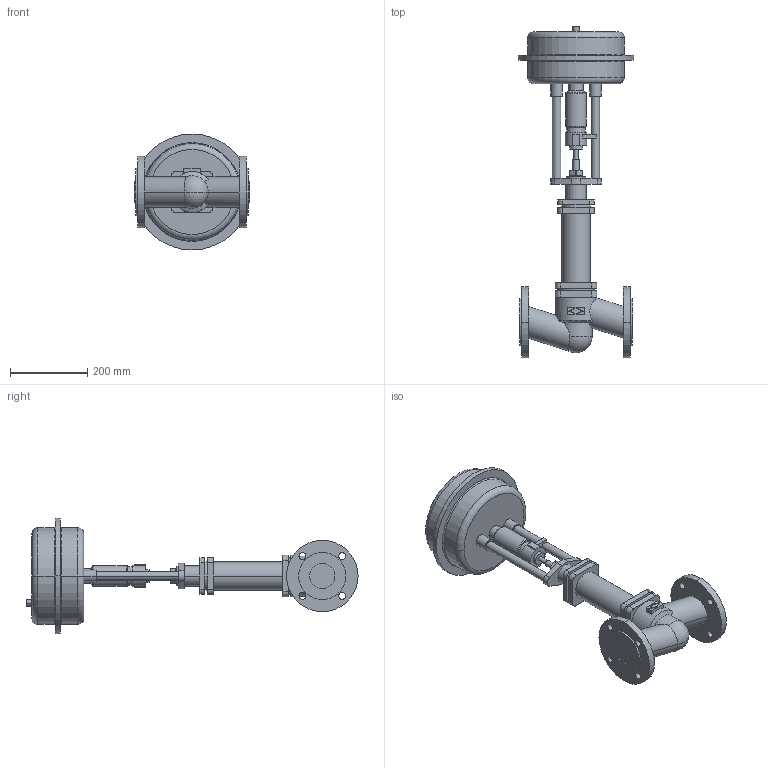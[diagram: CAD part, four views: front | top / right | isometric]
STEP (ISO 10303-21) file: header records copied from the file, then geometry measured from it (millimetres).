
FILE_DESCRIPTION(('OneSpaceDesigner STEP Export'),'2;1');
FILE_NAME('c000002080.stp','2005-12-12T11:15:26',(''),(''),'OneSpace Designer STEP processor for AP203 (Solid Model)','OneSpace Designer 13.20A 18-Aug-2005 (C) CoCreate Software GmbH','');
FILE_SCHEMA(('CONFIG_CONTROL_DESIGN'));
Length unit declared in the file: millimetre
Products named in the file (1): 1
Bounding box: 300 x 859.6 x 300 mm (x, y, z)
Volume: 11783457.8 mm3; surface area: 640768.7 mm2
Topology: 1 solids, 1 shells, 218 faces, 535 edges, 349 vertices
Faces by surface type: cylinder 104, plane 90, torus 16, cone 6, sphere 2
Entity records: 6177 total; most frequent: CARTESIAN_POINT 1259, ORIENTED_EDGE 1066, DIRECTION 925, EDGE_CURVE 533, VERTEX_POINT 349, AXIS2_PLACEMENT_3D 332, EDGE_LOOP 270, VECTOR 261
